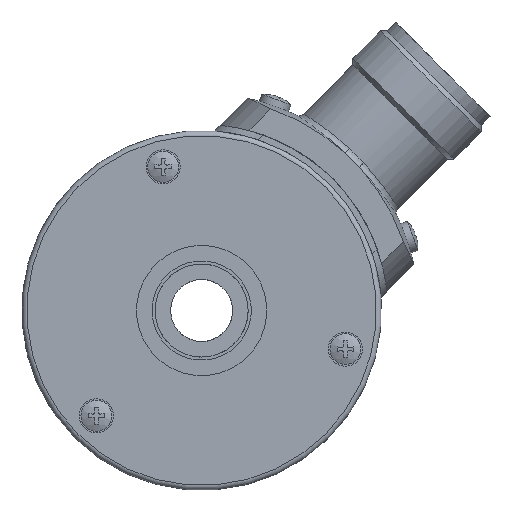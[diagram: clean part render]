
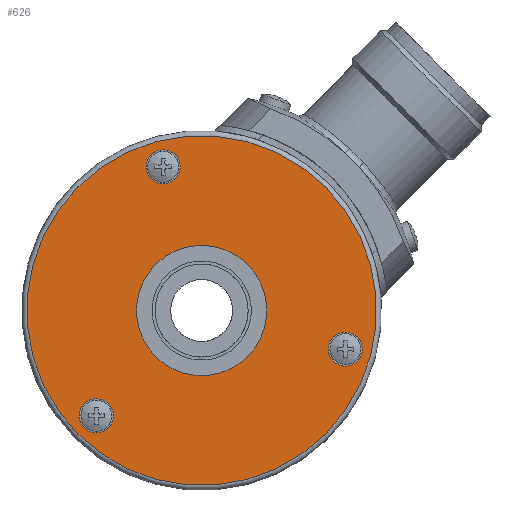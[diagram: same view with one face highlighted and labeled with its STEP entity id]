
A CAD part, left-side view. The second image highlights one B-rep face of the part: STEP entity #626.
In plain terms, the highlighted planar face has unit normal (-1, 0, 0).
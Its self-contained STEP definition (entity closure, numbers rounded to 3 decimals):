
#145 = ORIENTED_EDGE ( 'NONE', *, *, #2740, .F. ) ;
#626 = ADVANCED_FACE ( 'NONE', ( #7300, #7296, #7301, #7299, #7291 ), #8284, .T. ) ;
#1648 = EDGE_LOOP ( 'NONE', ( #16698 ) ) ;
#1649 = EDGE_LOOP ( 'NONE', ( #16569 ) ) ;
#1652 = EDGE_LOOP ( 'NONE', ( #16573 ) ) ;
#1653 = EDGE_LOOP ( 'NONE', ( #16618 ) ) ;
#1654 = EDGE_LOOP ( 'NONE', ( #145 ) ) ;
#2740 = EDGE_CURVE ( 'NONE', #16270, #16270, #11625, .T. ) ;
#2741 = EDGE_CURVE ( 'NONE', #16271, #16271, #11626, .T. ) ;
#2742 = EDGE_CURVE ( 'NONE', #16272, #16272, #11627, .T. ) ;
#2743 = EDGE_CURVE ( 'NONE', #16273, #16273, #11628, .T. ) ;
#2744 = EDGE_CURVE ( 'NONE', #16274, #16274, #11629, .T. ) ;
#6283 = AXIS2_PLACEMENT_3D ( 'NONE', #8285, #8282, #8287 ) ;
#6721 = AXIS2_PLACEMENT_3D ( 'NONE', #13268, #13269, #13270 ) ;
#6722 = AXIS2_PLACEMENT_3D ( 'NONE', #13271, #13272, #13273 ) ;
#6723 = AXIS2_PLACEMENT_3D ( 'NONE', #13274, #13275, #13276 ) ;
#6724 = AXIS2_PLACEMENT_3D ( 'NONE', #13277, #13278, #13280 ) ;
#6725 = AXIS2_PLACEMENT_3D ( 'NONE', #13281, #13282, #13283 ) ;
#7291 = FACE_BOUND ( 'NONE', #1654, .T. ) ;
#7296 = FACE_BOUND ( 'NONE', #1648, .T. ) ;
#7299 = FACE_BOUND ( 'NONE', #1653, .T. ) ;
#7300 = FACE_OUTER_BOUND ( 'NONE', #1649, .T. ) ;
#7301 = FACE_BOUND ( 'NONE', #1652, .T. ) ;
#8282 = DIRECTION ( 'NONE',  ( -1., 0., 0. ) ) ;
#8284 = PLANE ( 'NONE',  #6283 ) ;
#8285 = CARTESIAN_POINT ( 'NONE',  ( 0., 20.506, -20.506 ) ) ;
#8287 = DIRECTION ( 'NONE',  ( 0., -0.707, -0.707 ) ) ;
#11625 = CIRCLE ( 'NONE', #6721, 10.5 ) ;
#11626 = CIRCLE ( 'NONE', #6722, 28.2 ) ;
#11627 = CIRCLE ( 'NONE', #6723, 2.75 ) ;
#11628 = CIRCLE ( 'NONE', #6724, 2.75 ) ;
#11629 = CIRCLE ( 'NONE', #6725, 2.75 ) ;
#13268 = CARTESIAN_POINT ( 'NONE',  ( 0., 0., 0. ) ) ;
#13269 = DIRECTION ( 'NONE',  ( -1., 0., 0. ) ) ;
#13270 = DIRECTION ( 'NONE',  ( 0., -0.707, -0.707 ) ) ;
#13271 = CARTESIAN_POINT ( 'NONE',  ( 0., 0., 0. ) ) ;
#13272 = DIRECTION ( 'NONE',  ( -1., 0., 0. ) ) ;
#13273 = DIRECTION ( 'NONE',  ( 0., -0.707, -0.707 ) ) ;
#13274 = CARTESIAN_POINT ( 'NONE',  ( 0., -23.182, -6.212 ) ) ;
#13275 = DIRECTION ( 'NONE',  ( -1., 0., 0. ) ) ;
#13276 = DIRECTION ( 'NONE',  ( 0., -0.259, 0.966 ) ) ;
#13277 = CARTESIAN_POINT ( 'NONE',  ( 0., 6.212, 23.182 ) ) ;
#13278 = DIRECTION ( 'NONE',  ( -1., 0., 0. ) ) ;
#13280 = DIRECTION ( 'NONE',  ( 0., 0.966, -0.259 ) ) ;
#13281 = CARTESIAN_POINT ( 'NONE',  ( 0., 16.971, -16.971 ) ) ;
#13282 = DIRECTION ( 'NONE',  ( -1., 0., 0. ) ) ;
#13283 = DIRECTION ( 'NONE',  ( 0., -0.707, -0.707 ) ) ;
#15960 = CARTESIAN_POINT ( 'NONE',  ( 0., -7.425, -7.425 ) ) ;
#15961 = CARTESIAN_POINT ( 'NONE',  ( 0., -19.94, -19.94 ) ) ;
#15962 = CARTESIAN_POINT ( 'NONE',  ( 0., -23.894, -3.555 ) ) ;
#15963 = CARTESIAN_POINT ( 'NONE',  ( 0., 8.868, 22.47 ) ) ;
#15964 = CARTESIAN_POINT ( 'NONE',  ( 0., 15.026, -18.915 ) ) ;
#16270 = VERTEX_POINT ( 'NONE', #15960 ) ;
#16271 = VERTEX_POINT ( 'NONE', #15961 ) ;
#16272 = VERTEX_POINT ( 'NONE', #15962 ) ;
#16273 = VERTEX_POINT ( 'NONE', #15963 ) ;
#16274 = VERTEX_POINT ( 'NONE', #15964 ) ;
#16569 = ORIENTED_EDGE ( 'NONE', *, *, #2741, .T. ) ;
#16573 = ORIENTED_EDGE ( 'NONE', *, *, #2743, .F. ) ;
#16618 = ORIENTED_EDGE ( 'NONE', *, *, #2744, .F. ) ;
#16698 = ORIENTED_EDGE ( 'NONE', *, *, #2742, .F. ) ;
